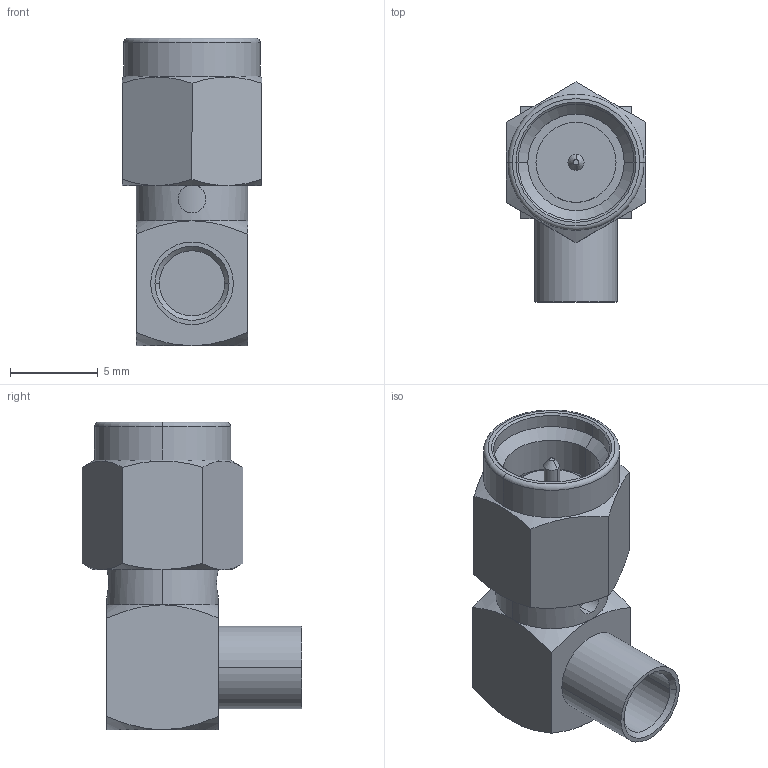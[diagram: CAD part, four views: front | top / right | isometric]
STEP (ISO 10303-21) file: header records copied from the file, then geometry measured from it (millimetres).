
FILE_DESCRIPTION (( 'STEP AP214' ), '1' );
FILE_NAME ('SF2912-6001.STEP', '2015-12-02T15:21:19', ( '' ), ( '' ), 'SwSTEP 2.0', 'SolidWorks 2015', '' );
FILE_SCHEMA (( 'AUTOMOTIVE_DESIGN' ));
Length unit declared in the file: inch
Products named in the file (1): SF2912-6001
Bounding box: 7.92 x 12.5 x 17.5 mm (x, y, z)
Volume: 690.9 mm3; surface area: 845.4 mm2
Topology: 1 solids, 1 shells, 78 faces, 176 edges, 108 vertices
Faces by surface type: cylinder 30, cone 26, plane 20, torus 2
Entity records: 3397 total; most frequent: CARTESIAN_POINT 701, DIRECTION 356, ORIENTED_EDGE 352, EDGE_CURVE 176, AXIS2_PLACEMENT_3D 149, VERTEX_POINT 108, EDGE_LOOP 86, ADVANCED_FACE 78
